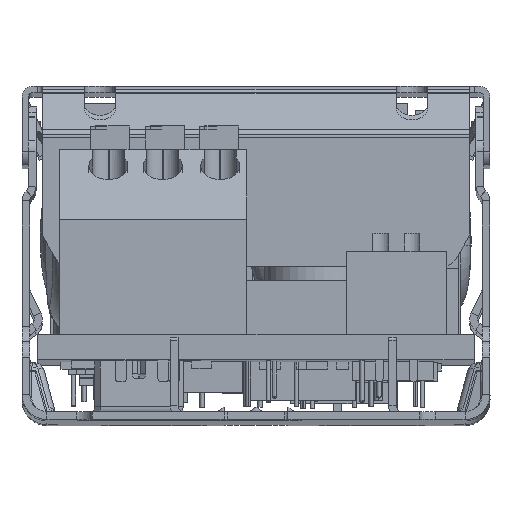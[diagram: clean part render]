
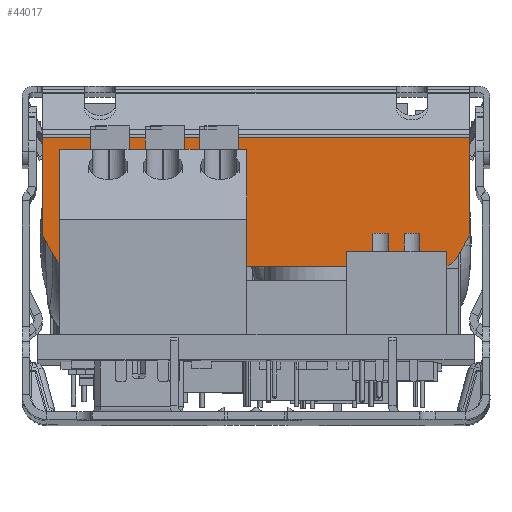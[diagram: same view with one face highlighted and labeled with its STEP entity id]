
A CAD part, top view. The second image highlights one B-rep face of the part: STEP entity #44017.
In plain terms, the highlighted planar face has unit normal (0, 0, 1).
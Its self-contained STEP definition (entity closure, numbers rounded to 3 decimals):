
#8941=DIRECTION('',(0.,-1.,0.));
#8942=VECTOR('',#8941,5.989);
#8943=CARTESIAN_POINT('',(-34.001,4.893,85.7));
#8944=LINE('',#8943,#8942);
#8989=CARTESIAN_POINT('',(-33.001,-1.097,85.7));
#8990=DIRECTION('',(0.,0.,-1.));
#8991=DIRECTION('',(-0.866,-0.5,0.));
#8992=AXIS2_PLACEMENT_3D('',#8989,#8990,#8991);
#8994=CARTESIAN_POINT('',(-7.601,-1.097,85.7));
#8995=DIRECTION('',(0.,0.,-1.));
#8996=DIRECTION('',(1.,0.,0.));
#8997=AXIS2_PLACEMENT_3D('',#8994,#8995,#8996);
#8999=DIRECTION('',(-0.5,-0.866,0.));
#9000=VECTOR('',#8999,1.464);
#9001=CARTESIAN_POINT('',(-6.735,-1.597,85.7));
#9002=LINE('',#9001,#9000);
#9003=CARTESIAN_POINT('',(-8.333,-2.365,85.7));
#9004=DIRECTION('',(0.,0.,-1.));
#9005=DIRECTION('',(0.866,-0.5,0.));
#9006=AXIS2_PLACEMENT_3D('',#9003,#9004,#9005);
#9008=CARTESIAN_POINT('',(-32.269,-2.365,85.7));
#9009=DIRECTION('',(0.,0.,-1.));
#9010=DIRECTION('',(0.,-1.,0.));
#9011=AXIS2_PLACEMENT_3D('',#9008,#9009,#9010);
#9013=DIRECTION('',(-0.5,0.866,0.));
#9014=VECTOR('',#9013,1.464);
#9015=CARTESIAN_POINT('',(-33.135,-2.865,85.7));
#9016=LINE('',#9015,#9014);
#9017=DIRECTION('',(-1.,0.,0.));
#9018=VECTOR('',#9017,27.4);
#9019=CARTESIAN_POINT('',(-6.601,4.893,85.7));
#9020=LINE('',#9019,#9018);
#9740=DIRECTION('',(0.,1.,0.));
#9741=VECTOR('',#9740,5.989);
#9742=CARTESIAN_POINT('',(-6.601,-1.097,85.7));
#9743=LINE('',#9742,#9741);
#9795=DIRECTION('',(1.,0.,0.));
#9796=VECTOR('',#9795,23.936);
#9797=CARTESIAN_POINT('',(-32.269,-3.365,85.7));
#9798=LINE('',#9797,#9796);
#26864=CARTESIAN_POINT('',(-34.001,4.893,85.7));
#26865=VERTEX_POINT('',#26864);
#26866=CARTESIAN_POINT('',(-34.001,-1.097,85.7));
#26867=VERTEX_POINT('',#26866);
#26884=CARTESIAN_POINT('',(-33.867,-1.597,85.7));
#26885=VERTEX_POINT('',#26884);
#26886=CARTESIAN_POINT('',(-6.601,4.893,85.7));
#26887=VERTEX_POINT('',#26886);
#26888=CARTESIAN_POINT('',(-6.601,-1.097,85.7));
#26889=VERTEX_POINT('',#26888);
#26890=CARTESIAN_POINT('',(-6.735,-1.597,85.7));
#26891=VERTEX_POINT('',#26890);
#26892=CARTESIAN_POINT('',(-7.467,-2.865,85.7));
#26893=VERTEX_POINT('',#26892);
#26894=CARTESIAN_POINT('',(-8.333,-3.365,85.7));
#26895=VERTEX_POINT('',#26894);
#26896=CARTESIAN_POINT('',(-32.269,-3.365,85.7));
#26897=VERTEX_POINT('',#26896);
#26898=CARTESIAN_POINT('',(-33.135,-2.865,85.7));
#26899=VERTEX_POINT('',#26898);
#43992=CARTESIAN_POINT('',(-13.111,5.183,85.7));
#43993=DIRECTION('',(0.,0.,1.));
#43994=DIRECTION('',(-1.,0.,0.));
#43995=AXIS2_PLACEMENT_3D('',#43992,#43993,#43994);
#43996=PLANE('',#43995);
#43997=ORIENTED_EDGE('',*,*,#43983,.T.);
#43998=ORIENTED_EDGE('',*,*,#43944,.F.);
#44000=ORIENTED_EDGE('',*,*,#43999,.F.);
#44002=ORIENTED_EDGE('',*,*,#44001,.F.);
#44004=ORIENTED_EDGE('',*,*,#44003,.T.);
#44006=ORIENTED_EDGE('',*,*,#44005,.T.);
#44008=ORIENTED_EDGE('',*,*,#44007,.T.);
#44010=ORIENTED_EDGE('',*,*,#44009,.F.);
#44012=ORIENTED_EDGE('',*,*,#44011,.T.);
#44014=ORIENTED_EDGE('',*,*,#44013,.T.);
#44015=EDGE_LOOP('',(#43997,#43998,#44000,#44002,#44004,#44006,#44008,#44010,
#44012,#44014));
#44016=FACE_OUTER_BOUND('',#44015,.F.);
#44017=ADVANCED_FACE('',(#44016),#43996,.T.);
#8993=CIRCLE('',#8992,1.);
#8998=CIRCLE('',#8997,1.);
#9007=CIRCLE('',#9006,1.);
#9012=CIRCLE('',#9011,1.);
#43944=EDGE_CURVE('',#26865,#26867,#8944,.T.);
#43983=EDGE_CURVE('',#26885,#26867,#8993,.T.);
#43999=EDGE_CURVE('',#26887,#26865,#9020,.T.);
#44001=EDGE_CURVE('',#26889,#26887,#9743,.T.);
#44003=EDGE_CURVE('',#26889,#26891,#8998,.T.);
#44005=EDGE_CURVE('',#26891,#26893,#9002,.T.);
#44007=EDGE_CURVE('',#26893,#26895,#9007,.T.);
#44009=EDGE_CURVE('',#26897,#26895,#9798,.T.);
#44011=EDGE_CURVE('',#26897,#26899,#9012,.T.);
#44013=EDGE_CURVE('',#26899,#26885,#9016,.T.);
